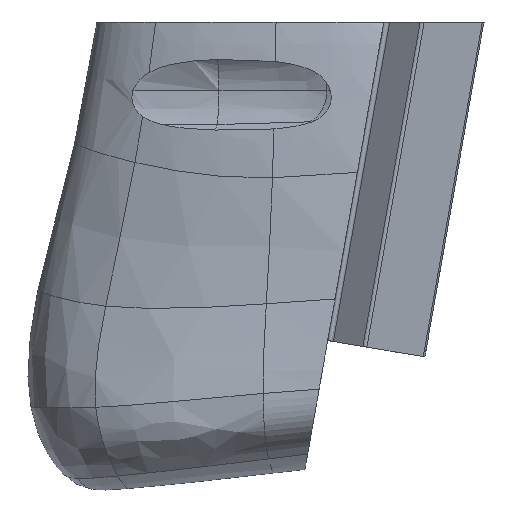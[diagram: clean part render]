
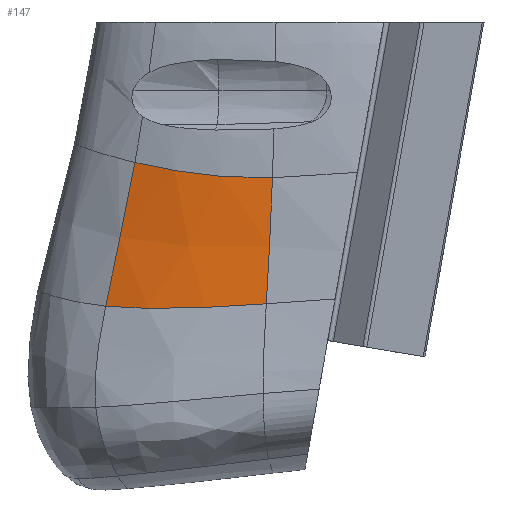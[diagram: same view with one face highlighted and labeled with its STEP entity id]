
A CAD part, front view. The second image highlights one B-rep face of the part: STEP entity #147.
In plain terms, the highlighted free-form (B-spline) face has degree [3, 3] with [5, 5] control points.
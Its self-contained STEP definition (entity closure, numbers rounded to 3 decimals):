
#147=ADVANCED_FACE('',(#214),#1147,.T.);
#214=FACE_OUTER_BOUND('',#281,.T.);
#281=EDGE_LOOP('',(#357,#358,#359,#360));
#357=ORIENTED_EDGE('',*,*,#693,.T.);
#358=ORIENTED_EDGE('',*,*,#704,.T.);
#359=ORIENTED_EDGE('',*,*,#705,.F.);
#360=ORIENTED_EDGE('',*,*,#686,.F.);
#686=EDGE_CURVE('',#1029,#1036,#893,.T.);
#693=EDGE_CURVE('',#1029,#1034,#900,.T.);
#704=EDGE_CURVE('',#1034,#1040,#911,.T.);
#705=EDGE_CURVE('',#1036,#1040,#912,.T.);
#893=B_SPLINE_CURVE_WITH_KNOTS('',3,(#5321,#5322,#5323,#5324,#5325),
 .UNSPECIFIED.,.F.,.F.,(4,1,4),(0.,1.,2.),.UNSPECIFIED.);
#900=B_SPLINE_CURVE_WITH_KNOTS('',3,(#5366,#5367,#5368,#5369,#5370),
 .UNSPECIFIED.,.F.,.F.,(4,1,4),(0.,1.,2.),.UNSPECIFIED.);
#911=B_SPLINE_CURVE_WITH_KNOTS('',3,(#5428,#5429,#5430,#5431,#5432),
 .UNSPECIFIED.,.F.,.F.,(4,1,4),(0.,1.,2.),.UNSPECIFIED.);
#912=B_SPLINE_CURVE_WITH_KNOTS('',3,(#5433,#5434,#5435,#5436,#5437),
 .UNSPECIFIED.,.F.,.F.,(4,1,4),(0.,1.,2.),.UNSPECIFIED.);
#1029=VERTEX_POINT('',#5161);
#1034=VERTEX_POINT('',#5166);
#1036=VERTEX_POINT('',#5168);
#1040=VERTEX_POINT('',#5172);
#1147=B_SPLINE_SURFACE_WITH_KNOTS('',3,3,((#1450,#1451,#1452,#1453,#1454),
(#1455,#1456,#1457,#1458,#1459),(#1460,#1461,#1462,#1463,#1464),(#1465,
#1466,#1467,#1468,#1469),(#1470,#1471,#1472,#1473,#1474)),.UNSPECIFIED.,
 .F.,.F.,.F.,(4,1,4),(4,1,4),(0.,1.,2.),(0.,1.,2.),.UNSPECIFIED.);
#1450=CARTESIAN_POINT('',(-60.543,-13.339,48.949));
#1451=CARTESIAN_POINT('',(-59.725,-12.537,53.048));
#1452=CARTESIAN_POINT('',(-57.725,-11.538,62.256));
#1453=CARTESIAN_POINT('',(-55.635,-11.044,72.407));
#1454=CARTESIAN_POINT('',(-54.727,-10.749,77.45));
#1455=CARTESIAN_POINT('',(-56.293,-15.48,48.511));
#1456=CARTESIAN_POINT('',(-55.551,-14.597,52.486));
#1457=CARTESIAN_POINT('',(-53.76,-13.486,61.439));
#1458=CARTESIAN_POINT('',(-51.894,-12.905,71.496));
#1459=CARTESIAN_POINT('',(-51.077,-12.551,76.574));
#1460=CARTESIAN_POINT('',(-46.191,-18.859,48.328));
#1461=CARTESIAN_POINT('',(-45.682,-17.911,52.009));
#1462=CARTESIAN_POINT('',(-44.485,-16.721,60.224));
#1463=CARTESIAN_POINT('',(-43.241,-16.026,69.828));
#1464=CARTESIAN_POINT('',(-42.687,-15.573,74.896));
#1465=CARTESIAN_POINT('',(-34.514,-21.166,49.002));
#1466=CARTESIAN_POINT('',(-34.239,-20.215,52.483));
#1467=CARTESIAN_POINT('',(-33.613,-18.96,60.124));
#1468=CARTESIAN_POINT('',(-32.985,-18.111,69.266));
#1469=CARTESIAN_POINT('',(-32.71,-17.567,74.249));
#1470=CARTESIAN_POINT('',(-28.689,-22.235,49.419));
#1471=CARTESIAN_POINT('',(-28.492,-21.265,52.872));
#1472=CARTESIAN_POINT('',(-28.052,-19.911,60.421));
#1473=CARTESIAN_POINT('',(-27.641,-18.934,69.461));
#1474=CARTESIAN_POINT('',(-27.472,-18.341,74.404));
#5161=CARTESIAN_POINT('',(-60.543,-13.339,48.949));
#5166=CARTESIAN_POINT('',(-28.689,-22.235,49.419));
#5168=CARTESIAN_POINT('',(-54.727,-10.749,77.45));
#5172=CARTESIAN_POINT('',(-27.472,-18.341,74.404));
#5321=CARTESIAN_POINT('',(-60.543,-13.339,48.949));
#5322=CARTESIAN_POINT('',(-59.725,-12.537,53.048));
#5323=CARTESIAN_POINT('',(-57.725,-11.538,62.256));
#5324=CARTESIAN_POINT('',(-55.635,-11.044,72.407));
#5325=CARTESIAN_POINT('',(-54.727,-10.749,77.45));
#5366=CARTESIAN_POINT('',(-60.543,-13.339,48.949));
#5367=CARTESIAN_POINT('',(-56.293,-15.48,48.511));
#5368=CARTESIAN_POINT('',(-46.191,-18.859,48.328));
#5369=CARTESIAN_POINT('',(-34.514,-21.166,49.002));
#5370=CARTESIAN_POINT('',(-28.689,-22.235,49.419));
#5428=CARTESIAN_POINT('',(-28.689,-22.235,49.419));
#5429=CARTESIAN_POINT('',(-28.492,-21.265,52.872));
#5430=CARTESIAN_POINT('',(-28.052,-19.911,60.421));
#5431=CARTESIAN_POINT('',(-27.641,-18.934,69.461));
#5432=CARTESIAN_POINT('',(-27.472,-18.341,74.404));
#5433=CARTESIAN_POINT('',(-54.727,-10.749,77.45));
#5434=CARTESIAN_POINT('',(-51.077,-12.551,76.574));
#5435=CARTESIAN_POINT('',(-42.687,-15.573,74.896));
#5436=CARTESIAN_POINT('',(-32.71,-17.567,74.249));
#5437=CARTESIAN_POINT('',(-27.472,-18.341,74.404));
